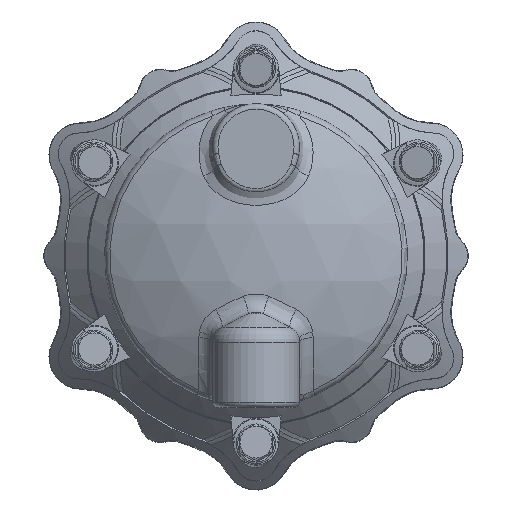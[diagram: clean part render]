
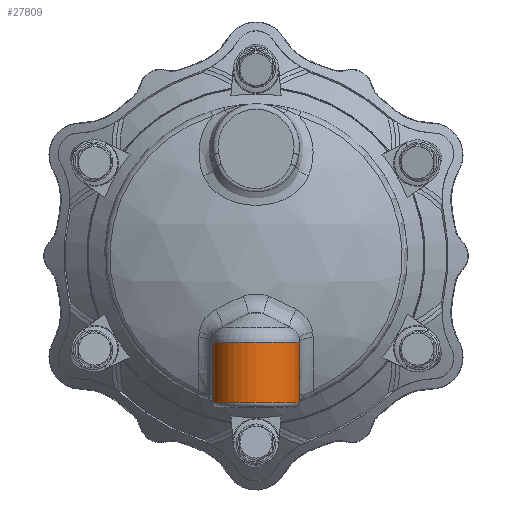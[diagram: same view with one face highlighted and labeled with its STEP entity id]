
A CAD part, top view. The second image highlights one B-rep face of the part: STEP entity #27809.
In plain terms, the highlighted cylindrical face has radius 40.5 mm (diameter 81 mm), a partial arc.
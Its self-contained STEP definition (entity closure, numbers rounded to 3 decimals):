
#373 = DIRECTION ( 'NONE',  ( 0., 0., 1. ) ) ;
#375 = DIRECTION ( 'NONE',  ( 0., 1., 0. ) ) ;
#377 = CARTESIAN_POINT ( 'NONE',  ( 0., 0., 40.5 ) ) ;
#7233 = VERTEX_POINT ( 'NONE', #24798 ) ;
#7260 = VERTEX_POINT ( 'NONE', #24825 ) ;
#9536 = LINE ( 'NONE', #14628, #9537 ) ;
#9537 = VECTOR ( 'NONE', #14630, 1000. ) ;
#9545 = LINE ( 'NONE', #14668, #9546 ) ;
#9546 = VECTOR ( 'NONE', #14673, 1000. ) ;
#9548 = CIRCLE ( 'NONE', #18348, 40.5 ) ;
#13641 = CARTESIAN_POINT ( 'NONE',  ( 38.506, -136.066, 27.891 ) ) ;
#13672 = CARTESIAN_POINT ( 'NONE',  ( 38.1, -136.719, 26.766 ) ) ;
#13696 = CARTESIAN_POINT ( 'NONE',  ( 38.857, -135.39, 29.02 ) ) ;
#13697 = CARTESIAN_POINT ( 'NONE',  ( 39.457, -134.002, 31.293 ) ) ;
#13699 = CARTESIAN_POINT ( 'NONE',  ( 39.707, -133.289, 32.438 ) ) ;
#13701 = CARTESIAN_POINT ( 'NONE',  ( 40.105, -131.839, 34.739 ) ) ;
#13703 = CARTESIAN_POINT ( 'NONE',  ( 40.253, -131.105, 35.889 ) ) ;
#13705 = CARTESIAN_POINT ( 'NONE',  ( 40.401, -129.997, 37.616 ) ) ;
#13707 = CARTESIAN_POINT ( 'NONE',  ( 40.438, -129.627, 38.192 ) ) ;
#13709 = CARTESIAN_POINT ( 'NONE',  ( 40.475, -129.07, 39.057 ) ) ;
#13711 = CARTESIAN_POINT ( 'NONE',  ( 40.489, -128.791, 39.49 ) ) ;
#13713 = CARTESIAN_POINT ( 'NONE',  ( 40.496, -128.512, 39.923 ) ) ;
#13715 = CARTESIAN_POINT ( 'NONE',  ( 40.499, -128.325, 40.211 ) ) ;
#13717 = CARTESIAN_POINT ( 'NONE',  ( 40.5, -128.232, 40.357 ) ) ;
#13719 = CARTESIAN_POINT ( 'NONE',  ( 40.5, -128.139, 40.5 ) ) ;
#13830 = CARTESIAN_POINT ( 'NONE',  ( -40.5, -128.139, 40.5 ) ) ;
#13851 = CARTESIAN_POINT ( 'NONE',  ( -40.5, -128.511, 39.924 ) ) ;
#13879 = CARTESIAN_POINT ( 'NONE',  ( -40.488, -128.884, 39.345 ) ) ;
#13881 = CARTESIAN_POINT ( 'NONE',  ( -40.438, -129.627, 38.192 ) ) ;
#13883 = CARTESIAN_POINT ( 'NONE',  ( -40.401, -129.997, 37.616 ) ) ;
#13885 = CARTESIAN_POINT ( 'NONE',  ( -40.253, -131.105, 35.889 ) ) ;
#13887 = CARTESIAN_POINT ( 'NONE',  ( -40.105, -131.839, 34.739 ) ) ;
#13889 = CARTESIAN_POINT ( 'NONE',  ( -39.707, -133.289, 32.438 ) ) ;
#13891 = CARTESIAN_POINT ( 'NONE',  ( -39.457, -134.002, 31.293 ) ) ;
#13893 = CARTESIAN_POINT ( 'NONE',  ( -38.857, -135.39, 29.02 ) ) ;
#13895 = CARTESIAN_POINT ( 'NONE',  ( -38.506, -136.066, 27.891 ) ) ;
#13897 = CARTESIAN_POINT ( 'NONE',  ( -38.1, -136.719, 26.766 ) ) ;
#14589 = CARTESIAN_POINT ( 'NONE',  ( 0., -136.719, 40.5 ) ) ;
#14591 = DIRECTION ( 'NONE',  ( 0., 1., 0. ) ) ;
#14593 = DIRECTION ( 'NONE',  ( 0., 0., -1. ) ) ;
#14628 = CARTESIAN_POINT ( 'NONE',  ( 40.5, -135.809, 40.5 ) ) ;
#14630 = DIRECTION ( 'NONE',  ( 0., 1., 0. ) ) ;
#14668 = CARTESIAN_POINT ( 'NONE',  ( -40.5, -71.719, 40.5 ) ) ;
#14673 = DIRECTION ( 'NONE',  ( 0., -1., 0. ) ) ;
#14685 = CARTESIAN_POINT ( 'NONE',  ( 0., -80.957, 40.5 ) ) ;
#14686 = DIRECTION ( 'NONE',  ( 0., -1., 0. ) ) ;
#14687 = DIRECTION ( 'NONE',  ( 0., 0., -1. ) ) ;
#15582 = EDGE_CURVE ( 'NONE', #25395, #25322, #9536, .T. ) ;
#15592 = EDGE_CURVE ( 'NONE', #24493, #25391, #9545, .T. ) ;
#15594 = EDGE_CURVE ( 'NONE', #25322, #24493, #9548, .T. ) ;
#18348 = AXIS2_PLACEMENT_3D ( 'NONE', #14685, #14686, #14687 ) ;
#18544 = AXIS2_PLACEMENT_3D ( 'NONE', #14589, #14591, #14593 ) ;
#19392 = B_SPLINE_CURVE_WITH_KNOTS ( 'NONE', 3,
 ( #13672, #13641, #13696, #13697, #13699, #13701, #13703, #13705, #13707, #13709, #13711, #13713, #13715, #13717, #13719 ),
 .UNSPECIFIED., .F., .F.,
 ( 4, 2, 2, 2, 2, 1, 2, 4 ),
 ( 0.006, 0.01, 0.014, 0.018, 0.02, 0.021, 0.022, 0.022 ),
 .UNSPECIFIED. ) ;
#19399 = B_SPLINE_CURVE_WITH_KNOTS ( 'NONE', 3,
 ( #13830, #13851, #13879, #13881, #13883, #13885, #13887, #13889, #13891, #13893, #13895, #13897 ),
 .UNSPECIFIED., .F., .F.,
 ( 4, 2, 2, 2, 2, 4 ),
 ( 0., 0.002, 0.004, 0.008, 0.012, 0.016 ),
 .UNSPECIFIED. ) ;
#20778 = ORIENTED_EDGE ( 'NONE', *, *, #26981, .T. ) ;
#20779 = ORIENTED_EDGE ( 'NONE', *, *, #27032, .T. ) ;
#20780 = ORIENTED_EDGE ( 'NONE', *, *, #26971, .T. ) ;
#20781 = ORIENTED_EDGE ( 'NONE', *, *, #15582, .T. ) ;
#20782 = ORIENTED_EDGE ( 'NONE', *, *, #15594, .T. ) ;
#20783 = ORIENTED_EDGE ( 'NONE', *, *, #15592, .T. ) ;
#21018 = EDGE_LOOP ( 'NONE', ( #20778, #20779, #20780, #20781, #20782, #20783 ) ) ;
#23741 = CARTESIAN_POINT ( 'NONE',  ( -40.5, -80.957, 40.5 ) ) ;
#23765 = CARTESIAN_POINT ( 'NONE',  ( 40.5, -80.957, 40.5 ) ) ;
#23893 = CARTESIAN_POINT ( 'NONE',  ( -40.5, -128.139, 40.5 ) ) ;
#23901 = CARTESIAN_POINT ( 'NONE',  ( 40.5, -128.139, 40.5 ) ) ;
#24493 = VERTEX_POINT ( 'NONE', #23741 ) ;
#24798 = CARTESIAN_POINT ( 'NONE',  ( -38.1, -136.719, 26.766 ) ) ;
#24825 = CARTESIAN_POINT ( 'NONE',  ( 38.1, -136.719, 26.766 ) ) ;
#25322 = VERTEX_POINT ( 'NONE', #23765 ) ;
#25391 = VERTEX_POINT ( 'NONE', #23893 ) ;
#25395 = VERTEX_POINT ( 'NONE', #23901 ) ;
#25755 = CIRCLE ( 'NONE', #18544, 40.5 ) ;
#26971 = EDGE_CURVE ( 'NONE', #7260, #25395, #19392, .T. ) ;
#26981 = EDGE_CURVE ( 'NONE', #25391, #7233, #19399, .T. ) ;
#27032 = EDGE_CURVE ( 'NONE', #7233, #7260, #25755, .T. ) ;
#27809 = ADVANCED_FACE ( 'NONE', ( #29640 ), #29638, .T. ) ;
#29238 = AXIS2_PLACEMENT_3D ( 'NONE', #377, #375, #373 ) ;
#29638 = CYLINDRICAL_SURFACE ( 'NONE', #29238, 40.5 ) ;
#29640 = FACE_OUTER_BOUND ( 'NONE', #21018, .T. ) ;
